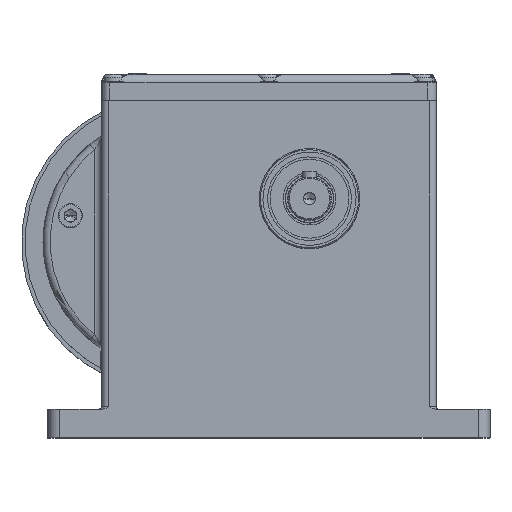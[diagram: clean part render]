
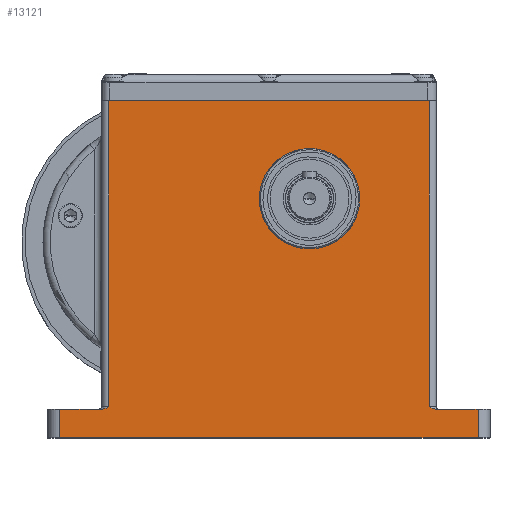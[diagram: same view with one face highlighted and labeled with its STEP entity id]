
A CAD part, top view. The second image highlights one B-rep face of the part: STEP entity #13121.
In plain terms, the highlighted planar face has unit normal (0, 0, 1).
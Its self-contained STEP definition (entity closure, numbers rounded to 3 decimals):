
#21 = VECTOR ( 'NONE', #11364, 1000. ) ;
#50 = DIRECTION ( 'NONE',  ( -1., 0., 0. ) ) ;
#99 = CARTESIAN_POINT ( 'NONE',  ( 129.5, -70., 40.25 ) ) ;
#235 = CARTESIAN_POINT ( 'NONE',  ( -45.5, 60.5, 40.25 ) ) ;
#248 = DIRECTION ( 'NONE',  ( 0., 1., 0. ) ) ;
#254 = DIRECTION ( 'NONE',  ( 1., 0., 0. ) ) ;
#273 = EDGE_CURVE ( 'NONE', #18678, #20848, #19261, .T. ) ;
#414 = DIRECTION ( 'NONE',  ( -1., 0., 0. ) ) ;
#667 = VERTEX_POINT ( 'NONE', #99 ) ;
#822 = CARTESIAN_POINT ( 'NONE',  ( -25., -69., 40.25 ) ) ;
#962 = CARTESIAN_POINT ( 'NONE',  ( -26.48, -69.761, 40.25 ) ) ;
#992 = CARTESIAN_POINT ( 'NONE',  ( -45.5, -82., 40.25 ) ) ;
#1126 = AXIS2_PLACEMENT_3D ( 'NONE', #4432, #14433, #2565 ) ;
#1218 = CARTESIAN_POINT ( 'NONE',  ( 111.646, -70., 40.25 ) ) ;
#1371 = VERTEX_POINT ( 'NONE', #16447 ) ;
#1437 = ORIENTED_EDGE ( 'NONE', *, *, #18459, .T. ) ;
#1759 = VERTEX_POINT ( 'NONE', #10993 ) ;
#1835 = CARTESIAN_POINT ( 'NONE',  ( -50.5, -70., 40.25 ) ) ;
#1895 = DIRECTION ( 'NONE',  ( 0., -1., 0. ) ) ;
#2144 = LINE ( 'NONE', #13632, #5886 ) ;
#2315 = LINE ( 'NONE', #1835, #5190 ) ;
#2332 = DIRECTION ( 'NONE',  ( 0., 1., 0. ) ) ;
#2492 = AXIS2_PLACEMENT_3D ( 'NONE', #6096, #3825, #13336 ) ;
#2493 = VECTOR ( 'NONE', #5492, 1000. ) ;
#2565 = DIRECTION ( 'NONE',  ( 1., 0., 0. ) ) ;
#2757 = CARTESIAN_POINT ( 'NONE',  ( -45.5, -70., 40.25 ) ) ;
#2794 = CARTESIAN_POINT ( 'NONE',  ( 80., 18., 40.25 ) ) ;
#3013 = ORIENTED_EDGE ( 'NONE', *, *, #10123, .F. ) ;
#3347 = CARTESIAN_POINT ( 'NONE',  ( 111.404, -70., 40.25 ) ) ;
#3467 = VECTOR ( 'NONE', #50, 1000. ) ;
#3567 = CARTESIAN_POINT ( 'NONE',  ( 110.706, -69.844, 40.25 ) ) ;
#3602 = LINE ( 'NONE', #24682, #21 ) ;
#3825 = DIRECTION ( 'NONE',  ( 0., 0., 1. ) ) ;
#3857 = VERTEX_POINT ( 'NONE', #19495 ) ;
#4432 = CARTESIAN_POINT ( 'NONE',  ( 59., 18., 40.25 ) ) ;
#4584 = CARTESIAN_POINT ( 'NONE',  ( -27.169, -69.963, 40.25 ) ) ;
#4592 = VERTEX_POINT ( 'NONE', #5639 ) ;
#4943 = ORIENTED_EDGE ( 'NONE', *, *, #7843, .F. ) ;
#5190 = VECTOR ( 'NONE', #23242, 1000. ) ;
#5200 = ORIENTED_EDGE ( 'NONE', *, *, #8466, .F. ) ;
#5217 = CARTESIAN_POINT ( 'NONE',  ( 109.825, -69.477, 40.25 ) ) ;
#5230 = VERTEX_POINT ( 'NONE', #992 ) ;
#5492 = DIRECTION ( 'NONE',  ( 0., -1., 0. ) ) ;
#5639 = CARTESIAN_POINT ( 'NONE',  ( -25., -69., 40.25 ) ) ;
#5683 = LINE ( 'NONE', #19442, #3467 ) ;
#5886 = VECTOR ( 'NONE', #1895, 1000. ) ;
#6066 = B_SPLINE_CURVE_WITH_KNOTS ( 'NONE', 3,
 ( #822, #14077, #21736, #962, #19966, #4584, #12204, #19852 ),
 .UNSPECIFIED., .F., .F.,
 ( 4, 2, 2, 4 ),
 ( 0., 0.001, 0.002, 0.003 ),
 .UNSPECIFIED. ) ;
#6096 = CARTESIAN_POINT ( 'NONE',  ( 59., 18., 40.25 ) ) ;
#6552 = DIRECTION ( 'NONE',  ( 0., 0., -1. ) ) ;
#6634 = B_SPLINE_CURVE_WITH_KNOTS ( 'NONE', 3,
 ( #1218, #3347, #9097, #3567, #12831, #5217, #14978, #20248 ),
 .UNSPECIFIED., .F., .F.,
 ( 4, 2, 2, 4 ),
 ( 0., 0.001, 0.001, 0.003 ),
 .UNSPECIFIED. ) ;
#7069 = ORIENTED_EDGE ( 'NONE', *, *, #9580, .T. ) ;
#7774 = EDGE_CURVE ( 'NONE', #21051, #18678, #6634, .T. ) ;
#7843 = EDGE_CURVE ( 'NONE', #21051, #667, #2315, .T. ) ;
#8290 = CARTESIAN_POINT ( 'NONE',  ( -28., 60.5, 40.25 ) ) ;
#8466 = EDGE_CURVE ( 'NONE', #22047, #3857, #3602, .T. ) ;
#9097 = CARTESIAN_POINT ( 'NONE',  ( 111.169, -69.963, 40.25 ) ) ;
#9245 = EDGE_CURVE ( 'NONE', #20848, #1371, #5683, .T. ) ;
#9483 = CARTESIAN_POINT ( 'NONE',  ( 129.5, 60.5, 40.25 ) ) ;
#9580 = EDGE_CURVE ( 'NONE', #1371, #4592, #2144, .T. ) ;
#9620 = CARTESIAN_POINT ( 'NONE',  ( 109., 60.5, 40.25 ) ) ;
#9765 = LINE ( 'NONE', #16008, #16817 ) ;
#10061 = VERTEX_POINT ( 'NONE', #2794 ) ;
#10123 = EDGE_CURVE ( 'NONE', #20007, #10061, #22708, .T. ) ;
#10424 = ORIENTED_EDGE ( 'NONE', *, *, #273, .T. ) ;
#10436 = ORIENTED_EDGE ( 'NONE', *, *, #19392, .F. ) ;
#10632 = ORIENTED_EDGE ( 'NONE', *, *, #11088, .T. ) ;
#10737 = VECTOR ( 'NONE', #2332, 1000. ) ;
#10993 = CARTESIAN_POINT ( 'NONE',  ( 129.5, -82., 40.25 ) ) ;
#11088 = EDGE_CURVE ( 'NONE', #22047, #5230, #11477, .T. ) ;
#11364 = DIRECTION ( 'NONE',  ( 1., 0., 0. ) ) ;
#11418 = CARTESIAN_POINT ( 'NONE',  ( 109., -69., 40.25 ) ) ;
#11468 = LINE ( 'NONE', #9483, #10737 ) ;
#11477 = LINE ( 'NONE', #235, #2493 ) ;
#12204 = CARTESIAN_POINT ( 'NONE',  ( -27.404, -70., 40.25 ) ) ;
#12714 = ORIENTED_EDGE ( 'NONE', *, *, #9245, .T. ) ;
#12831 = CARTESIAN_POINT ( 'NONE',  ( 110.48, -69.761, 40.25 ) ) ;
#13121 = ADVANCED_FACE ( 'NONE', ( #15930, #19440 ), #15547, .F. ) ;
#13336 = DIRECTION ( 'NONE',  ( 1., 0., 0. ) ) ;
#13632 = CARTESIAN_POINT ( 'NONE',  ( -25., 60.5, 40.25 ) ) ;
#13661 = CIRCLE ( 'NONE', #2492, 21. ) ;
#14077 = CARTESIAN_POINT ( 'NONE',  ( -25.412, -69.238, 40.25 ) ) ;
#14189 = EDGE_LOOP ( 'NONE', ( #10436, #3013 ) ) ;
#14433 = DIRECTION ( 'NONE',  ( 0., 0., 1. ) ) ;
#14660 = EDGE_CURVE ( 'NONE', #5230, #1759, #9765, .T. ) ;
#14978 = CARTESIAN_POINT ( 'NONE',  ( 109.413, -69.238, 40.25 ) ) ;
#15028 = EDGE_LOOP ( 'NONE', ( #12714, #7069, #1437, #5200, #10632, #22612, #23387, #4943, #17319, #10424 ) ) ;
#15340 = VECTOR ( 'NONE', #248, 1000. ) ;
#15547 = PLANE ( 'NONE',  #16840 ) ;
#15657 = CARTESIAN_POINT ( 'NONE',  ( 109., 59., 40.25 ) ) ;
#15930 = FACE_BOUND ( 'NONE', #14189, .T. ) ;
#16008 = CARTESIAN_POINT ( 'NONE',  ( -45.5, -82., 40.25 ) ) ;
#16447 = CARTESIAN_POINT ( 'NONE',  ( -25., 59., 40.25 ) ) ;
#16817 = VECTOR ( 'NONE', #254, 1000. ) ;
#16840 = AXIS2_PLACEMENT_3D ( 'NONE', #8290, #6552, #414 ) ;
#17319 = ORIENTED_EDGE ( 'NONE', *, *, #7774, .T. ) ;
#18459 = EDGE_CURVE ( 'NONE', #4592, #3857, #6066, .T. ) ;
#18678 = VERTEX_POINT ( 'NONE', #11418 ) ;
#19261 = LINE ( 'NONE', #9620, #15340 ) ;
#19392 = EDGE_CURVE ( 'NONE', #10061, #20007, #13661, .T. ) ;
#19440 = FACE_OUTER_BOUND ( 'NONE', #15028, .T. ) ;
#19442 = CARTESIAN_POINT ( 'NONE',  ( -25., 59., 40.25 ) ) ;
#19495 = CARTESIAN_POINT ( 'NONE',  ( -27.646, -70., 40.25 ) ) ;
#19852 = CARTESIAN_POINT ( 'NONE',  ( -27.646, -70., 40.25 ) ) ;
#19966 = CARTESIAN_POINT ( 'NONE',  ( -26.706, -69.844, 40.25 ) ) ;
#20007 = VERTEX_POINT ( 'NONE', #21826 ) ;
#20169 = CARTESIAN_POINT ( 'NONE',  ( 111.646, -70., 40.25 ) ) ;
#20248 = CARTESIAN_POINT ( 'NONE',  ( 109., -69., 40.25 ) ) ;
#20848 = VERTEX_POINT ( 'NONE', #15657 ) ;
#21051 = VERTEX_POINT ( 'NONE', #20169 ) ;
#21736 = CARTESIAN_POINT ( 'NONE',  ( -25.825, -69.477, 40.25 ) ) ;
#21826 = CARTESIAN_POINT ( 'NONE',  ( 38., 18., 40.25 ) ) ;
#22047 = VERTEX_POINT ( 'NONE', #2757 ) ;
#22612 = ORIENTED_EDGE ( 'NONE', *, *, #14660, .T. ) ;
#22708 = CIRCLE ( 'NONE', #1126, 21. ) ;
#23242 = DIRECTION ( 'NONE',  ( 1., 0., 0. ) ) ;
#23387 = ORIENTED_EDGE ( 'NONE', *, *, #23911, .T. ) ;
#23911 = EDGE_CURVE ( 'NONE', #1759, #667, #11468, .T. ) ;
#24682 = CARTESIAN_POINT ( 'NONE',  ( -50.5, -70., 40.25 ) ) ;
